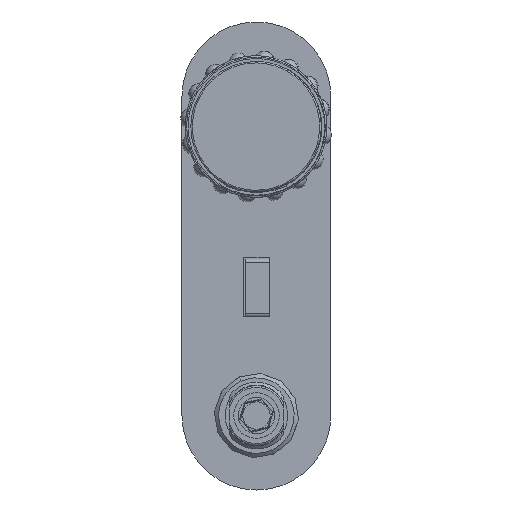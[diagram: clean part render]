
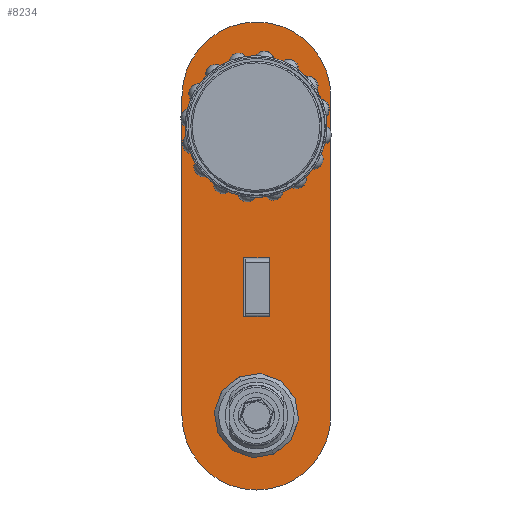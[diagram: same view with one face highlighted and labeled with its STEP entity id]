
A CAD part, front view. The second image highlights one B-rep face of the part: STEP entity #8234.
In plain terms, the highlighted planar face has unit normal (0, -1, 0).
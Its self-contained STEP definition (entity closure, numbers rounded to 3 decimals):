
#7613 = VERTEX_POINT ( 'NONE', #16088 ) ;
#7618 = EDGE_CURVE ( 'NONE', #7613, #7620, #16148, .T. ) ;
#7620 = VERTEX_POINT ( 'NONE', #16143 ) ;
#7777 = VERTEX_POINT ( 'NONE', #16320 ) ;
#7780 = EDGE_CURVE ( 'NONE', #7777, #7782, #16319, .T. ) ;
#7782 = VERTEX_POINT ( 'NONE', #16314 ) ;
#8080 = EDGE_LOOP ( 'NONE', ( #8082, #8188, #8193, #8197 ) ) ;
#8082 = ORIENTED_EDGE ( 'NONE', *, *, #8185, .F. ) ;
#8152 = VERTEX_POINT ( 'NONE', #16667 ) ;
#8154 = ORIENTED_EDGE ( 'NONE', *, *, #8156, .F. ) ;
#8156 = EDGE_CURVE ( 'NONE', #8158, #8152, #16731, .T. ) ;
#8158 = VERTEX_POINT ( 'NONE', #16726 ) ;
#8160 = ORIENTED_EDGE ( 'NONE', *, *, #8162, .T. ) ;
#8162 = EDGE_CURVE ( 'NONE', #8158, #8164, #16725, .T. ) ;
#8164 = VERTEX_POINT ( 'NONE', #16721 ) ;
#8166 = ORIENTED_EDGE ( 'NONE', *, *, #8168, .T. ) ;
#8168 = EDGE_CURVE ( 'NONE', #8164, #8209, #16720, .T. ) ;
#8172 = EDGE_LOOP ( 'NONE', ( #8174, #8178 ) ) ;
#8174 = ORIENTED_EDGE ( 'NONE', *, *, #8176, .F. ) ;
#8176 = EDGE_CURVE ( 'NONE', #7782, #7777, #16715, .T. ) ;
#8178 = ORIENTED_EDGE ( 'NONE', *, *, #7780, .F. ) ;
#8181 = EDGE_LOOP ( 'NONE', ( #8183, #8282 ) ) ;
#8183 = ORIENTED_EDGE ( 'NONE', *, *, #8281, .F. ) ;
#8185 = EDGE_CURVE ( 'NONE', #8186, #8187, #16710, .T. ) ;
#8186 = VERTEX_POINT ( 'NONE', #16706 ) ;
#8187 = VERTEX_POINT ( 'NONE', #16705 ) ;
#8188 = ORIENTED_EDGE ( 'NONE', *, *, #8189, .F. ) ;
#8189 = EDGE_CURVE ( 'NONE', #8191, #8186, #16704, .T. ) ;
#8191 = VERTEX_POINT ( 'NONE', #16700 ) ;
#8193 = ORIENTED_EDGE ( 'NONE', *, *, #8195, .F. ) ;
#8195 = EDGE_CURVE ( 'NONE', #8196, #8191, #16699, .T. ) ;
#8196 = VERTEX_POINT ( 'NONE', #16761 ) ;
#8197 = ORIENTED_EDGE ( 'NONE', *, *, #8199, .F. ) ;
#8199 = EDGE_CURVE ( 'NONE', #8187, #8196, #16760, .T. ) ;
#8202 = EDGE_LOOP ( 'NONE', ( #8204, #8154, #8160, #8166 ) ) ;
#8204 = ORIENTED_EDGE ( 'NONE', *, *, #8206, .T. ) ;
#8206 = EDGE_CURVE ( 'NONE', #8209, #8152, #16756, .T. ) ;
#8209 = VERTEX_POINT ( 'NONE', #16752 ) ;
#8234 = ADVANCED_FACE ( 'NONE', ( #16736, #16735, #16734, #16733 ), #16732, .F. ) ;
#8281 = EDGE_CURVE ( 'NONE', #7620, #7613, #16804, .T. ) ;
#8282 = ORIENTED_EDGE ( 'NONE', *, *, #7618, .F. ) ;
#16088 = CARTESIAN_POINT ( 'NONE',  ( 22.5, 0., 95. ) ) ;
#16143 = CARTESIAN_POINT ( 'NONE',  ( -22.5, 0., 95. ) ) ;
#16144 = DIRECTION ( 'NONE',  ( -1., 0., 0. ) ) ;
#16145 = DIRECTION ( 'NONE',  ( 0., -1., 0. ) ) ;
#16146 = CARTESIAN_POINT ( 'NONE',  ( 0., 0., 95. ) ) ;
#16147 = AXIS2_PLACEMENT_3D ( 'NONE', #16146, #16145, #16144 ) ;
#16148 = CIRCLE ( 'NONE', #16147, 22.5 ) ;
#16314 = CARTESIAN_POINT ( 'NONE',  ( -11., 0., 0. ) ) ;
#16315 = DIRECTION ( 'NONE',  ( -1., 0., 0. ) ) ;
#16316 = DIRECTION ( 'NONE',  ( 0., -1., 0. ) ) ;
#16317 = CARTESIAN_POINT ( 'NONE',  ( 0., 0., 0. ) ) ;
#16318 = AXIS2_PLACEMENT_3D ( 'NONE', #16317, #16316, #16315 ) ;
#16319 = CIRCLE ( 'NONE', #16318, 11. ) ;
#16320 = CARTESIAN_POINT ( 'NONE',  ( 11., 0., 0. ) ) ;
#16667 = CARTESIAN_POINT ( 'NONE',  ( -24.5, 0., 0. ) ) ;
#16699 = LINE ( 'NONE', #16764, #16763 ) ;
#16700 = CARTESIAN_POINT ( 'NONE',  ( -4.25, 0., 52. ) ) ;
#16701 = DIRECTION ( 'NONE',  ( 0., 0., -1. ) ) ;
#16702 = VECTOR ( 'NONE', #16701, 1000. ) ;
#16703 = CARTESIAN_POINT ( 'NONE',  ( -4.25, 0., 52. ) ) ;
#16704 = LINE ( 'NONE', #16703, #16702 ) ;
#16705 = CARTESIAN_POINT ( 'NONE',  ( 4.25, 0., 32.5 ) ) ;
#16706 = CARTESIAN_POINT ( 'NONE',  ( -4.25, 0., 32.5 ) ) ;
#16707 = DIRECTION ( 'NONE',  ( 1., 0., 0. ) ) ;
#16708 = VECTOR ( 'NONE', #16707, 1000. ) ;
#16709 = CARTESIAN_POINT ( 'NONE',  ( -4.25, 0., 32.5 ) ) ;
#16710 = LINE ( 'NONE', #16709, #16708 ) ;
#16711 = DIRECTION ( 'NONE',  ( -1., 0., 0. ) ) ;
#16712 = DIRECTION ( 'NONE',  ( 0., -1., 0. ) ) ;
#16713 = CARTESIAN_POINT ( 'NONE',  ( 0., 0., 0. ) ) ;
#16714 = AXIS2_PLACEMENT_3D ( 'NONE', #16713, #16712, #16711 ) ;
#16715 = CIRCLE ( 'NONE', #16714, 11. ) ;
#16716 = DIRECTION ( 'NONE',  ( 0., 0., -1. ) ) ;
#16717 = DIRECTION ( 'NONE',  ( 0., -1., 0. ) ) ;
#16718 = CARTESIAN_POINT ( 'NONE',  ( 0., 0., 105. ) ) ;
#16719 = AXIS2_PLACEMENT_3D ( 'NONE', #16718, #16717, #16716 ) ;
#16720 = CIRCLE ( 'NONE', #16719, 24.5 ) ;
#16721 = CARTESIAN_POINT ( 'NONE',  ( 24.5, 0., 105. ) ) ;
#16722 = DIRECTION ( 'NONE',  ( 0., 0., 1. ) ) ;
#16723 = VECTOR ( 'NONE', #16722, 1000. ) ;
#16724 = CARTESIAN_POINT ( 'NONE',  ( 24.5, 0., 0. ) ) ;
#16725 = LINE ( 'NONE', #16724, #16723 ) ;
#16726 = CARTESIAN_POINT ( 'NONE',  ( 24.5, 0., 0. ) ) ;
#16727 = DIRECTION ( 'NONE',  ( 0., 0., 1. ) ) ;
#16728 = DIRECTION ( 'NONE',  ( 0., 1., 0. ) ) ;
#16729 = CARTESIAN_POINT ( 'NONE',  ( 0., 0., 0. ) ) ;
#16730 = AXIS2_PLACEMENT_3D ( 'NONE', #16729, #16728, #16727 ) ;
#16731 = CIRCLE ( 'NONE', #16730, 24.5 ) ;
#16732 = PLANE ( 'NONE',  #16795 ) ;
#16733 = FACE_BOUND ( 'NONE', #8181, .T. ) ;
#16734 = FACE_BOUND ( 'NONE', #8172, .T. ) ;
#16735 = FACE_OUTER_BOUND ( 'NONE', #8202, .T. ) ;
#16736 = FACE_BOUND ( 'NONE', #8080, .T. ) ;
#16752 = CARTESIAN_POINT ( 'NONE',  ( -24.5, 0., 105. ) ) ;
#16753 = DIRECTION ( 'NONE',  ( 0., 0., -1. ) ) ;
#16754 = VECTOR ( 'NONE', #16753, 1000. ) ;
#16755 = CARTESIAN_POINT ( 'NONE',  ( -24.5, 0., 105. ) ) ;
#16756 = LINE ( 'NONE', #16755, #16754 ) ;
#16757 = DIRECTION ( 'NONE',  ( 0., 0., 1. ) ) ;
#16758 = VECTOR ( 'NONE', #16757, 1000. ) ;
#16759 = CARTESIAN_POINT ( 'NONE',  ( 4.25, 0., 52. ) ) ;
#16760 = LINE ( 'NONE', #16759, #16758 ) ;
#16761 = CARTESIAN_POINT ( 'NONE',  ( 4.25, 0., 52. ) ) ;
#16762 = DIRECTION ( 'NONE',  ( -1., 0., 0. ) ) ;
#16763 = VECTOR ( 'NONE', #16762, 1000. ) ;
#16764 = CARTESIAN_POINT ( 'NONE',  ( -4.25, 0., 52. ) ) ;
#16791 = DIRECTION ( 'NONE',  ( -1., 0., 0. ) ) ;
#16792 = DIRECTION ( 'NONE',  ( 0., 1., 0. ) ) ;
#16793 = CARTESIAN_POINT ( 'NONE',  ( -13.926, 0., 105. ) ) ;
#16795 = AXIS2_PLACEMENT_3D ( 'NONE', #16793, #16792, #16791 ) ;
#16801 = DIRECTION ( 'NONE',  ( -1., 0., 0. ) ) ;
#16802 = DIRECTION ( 'NONE',  ( 0., -1., 0. ) ) ;
#16803 = AXIS2_PLACEMENT_3D ( 'NONE', #16808, #16802, #16801 ) ;
#16804 = CIRCLE ( 'NONE', #16803, 22.5 ) ;
#16808 = CARTESIAN_POINT ( 'NONE',  ( 0., 0., 95. ) ) ;
